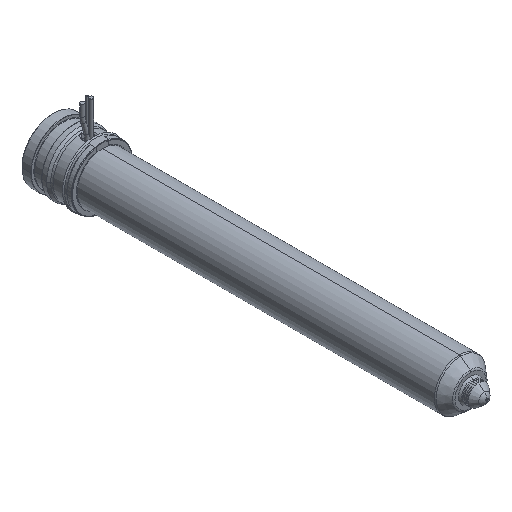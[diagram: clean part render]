
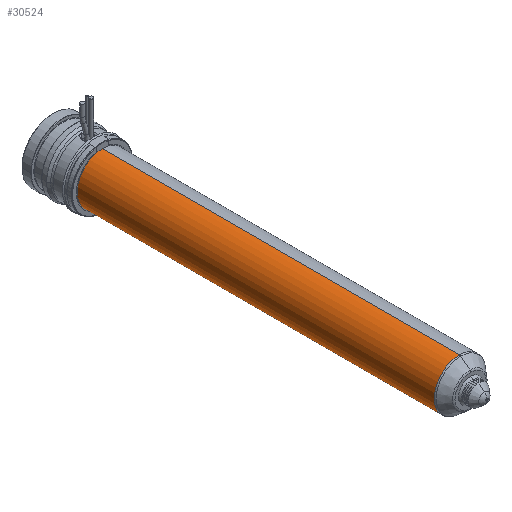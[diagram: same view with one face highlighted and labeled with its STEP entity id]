
A CAD part, isometric view. The second image highlights one B-rep face of the part: STEP entity #30524.
In plain terms, the highlighted cylindrical face has radius 12 mm (diameter 24 mm), a partial arc.
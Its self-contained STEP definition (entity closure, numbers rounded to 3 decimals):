
#29915=CARTESIAN_POINT('',(0.,-193.736,0.));
#29916=DIRECTION('',(0.,-1.,0.));
#29917=DIRECTION('',(0.,0.,1.));
#29918=AXIS2_PLACEMENT_3D('',#29915,#29916,#29917);
#29923=CARTESIAN_POINT('',(0.,-24.,0.));
#29924=DIRECTION('',(0.,1.,0.));
#29925=DIRECTION('',(0.,0.,-1.));
#29926=AXIS2_PLACEMENT_3D('',#29923,#29924,#29925);
#29931=DIRECTION('',(0.,1.,0.));
#29932=VECTOR('',#29931,169.736);
#29933=CARTESIAN_POINT('',(0.,-193.736,12.));
#29934=LINE('',#29933,#29932);
#29946=DIRECTION('',(0.,1.,0.));
#29947=VECTOR('',#29946,169.736);
#29948=CARTESIAN_POINT('',(0.,-193.736,-12.));
#29949=LINE('',#29948,#29947);
#30129=CARTESIAN_POINT('',(0.,-193.736,12.));
#30130=CARTESIAN_POINT('',(0.,-24.,12.));
#30131=VERTEX_POINT('',#30129);
#30132=VERTEX_POINT('',#30130);
#30133=CARTESIAN_POINT('',(0.,-193.736,-12.));
#30134=CARTESIAN_POINT('',(0.,-24.,-12.));
#30135=VERTEX_POINT('',#30133);
#30136=VERTEX_POINT('',#30134);
#30510=CARTESIAN_POINT('',(0.,-10.625,0.));
#30511=DIRECTION('',(0.,-1.,0.));
#30512=DIRECTION('',(0.,0.,1.));
#30513=AXIS2_PLACEMENT_3D('',#30510,#30511,#30512);
#30514=CYLINDRICAL_SURFACE('',#30513,12.);
#30516=ORIENTED_EDGE('',*,*,#30515,.F.);
#30517=ORIENTED_EDGE('',*,*,#30505,.T.);
#30519=ORIENTED_EDGE('',*,*,#30518,.T.);
#30521=ORIENTED_EDGE('',*,*,#30520,.T.);
#30522=EDGE_LOOP('',(#30516,#30517,#30519,#30521));
#30523=FACE_OUTER_BOUND('',#30522,.F.);
#30524=ADVANCED_FACE('',(#30523),#30514,.T.);
#29919=CIRCLE('',#29918,12.);
#29927=CIRCLE('',#29926,12.);
#30505=EDGE_CURVE('',#30131,#30135,#29919,.T.);
#30515=EDGE_CURVE('',#30131,#30132,#29934,.T.);
#30518=EDGE_CURVE('',#30135,#30136,#29949,.T.);
#30520=EDGE_CURVE('',#30136,#30132,#29927,.T.);
